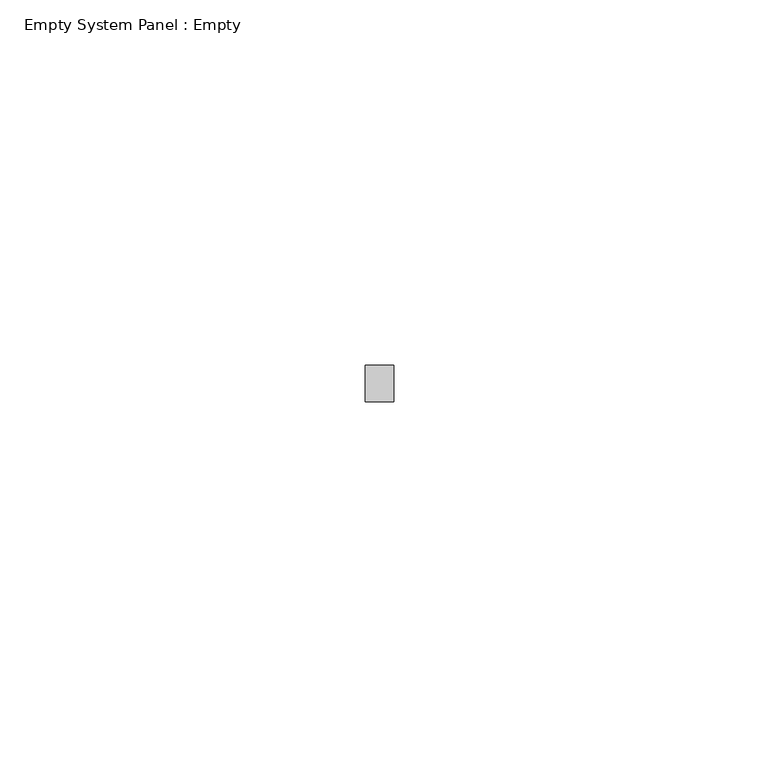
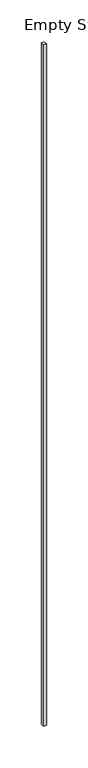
"""IFC4 building model written with IfcOpenShell, lengths in millimetres: plate geometry, Empty System Panel : Empty."""

from ifc_helpers import new_model, si_unit, origin, origin_with_axes, place, context, project, spatial, polyline, outline, extrude, source, transform, mapped, element, save


def empty_system_panel_empty_1908f167(model_context):
    return source(origin(), model_context, "Body", "SweptSolid", [
        extrude(outline(polyline([(1.9499998, -102.5), (-1.9499998, -102.5), (-1.9499998, -97.5), (1.9499998, -97.5), (1.9499998, -102.5)])), origin_with_axes(), (0.0, 0.0, 1.0), 1000.0),
    ])


if __name__ == "__main__":
    model = new_model("IFC4")
    model_context = context("Model", 3, world=origin())
    ifc_project = project(units=[si_unit("LENGTHUNIT", "METRE", prefix="MILLI")], contexts=[model_context])
    site = spatial("IfcSite", under=ifc_project)
    building = spatial("IfcBuilding", under=site)
    placement = place(None, origin())
    empty_system_panel_empty_shape = empty_system_panel_empty_1908f167(model_context)
    element("IfcPlate", 1, ObjectType="Empty System Panel : Empty", at=placement, inside=building, context=model_context, shape_type="MappedRepresentation", body=[
        mapped(empty_system_panel_empty_shape, transform((0.0, 0.0, 0.0), x_axis=(1.0, 0.0, 0.0), y_axis=(0.0, 1.0, 0.0), z_axis=(0.0, 0.0, 1.0))),
    ])
    save(model, "model.ifc")
